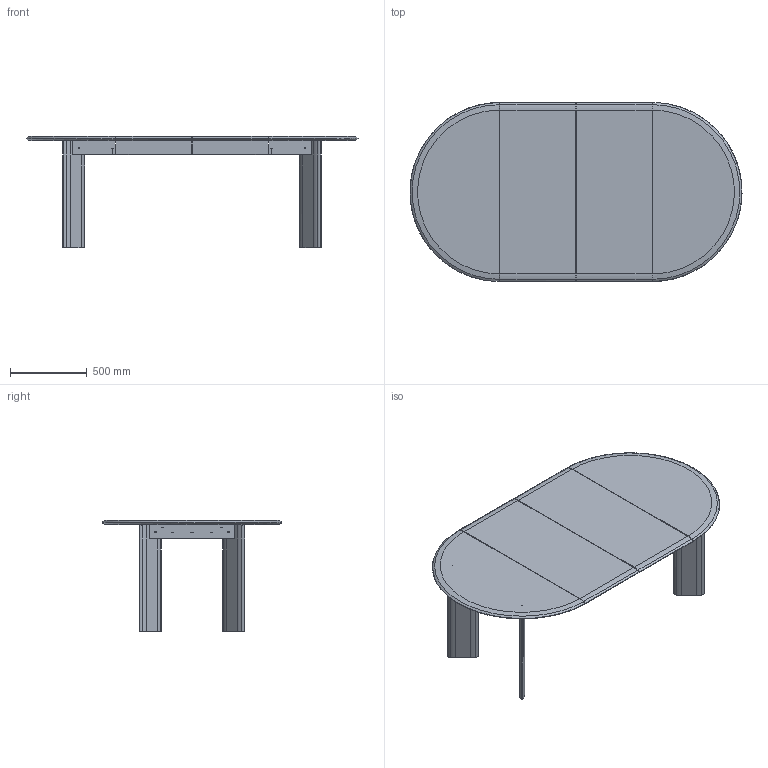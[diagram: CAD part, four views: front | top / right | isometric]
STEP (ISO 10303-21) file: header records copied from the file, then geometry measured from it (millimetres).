
FILE_DESCRIPTION(/* description */ (''),/* implementation_level */ '2;1');
FILE_NAME(/* name */ 'BNP89E~6',/* time_stamp */ '2020-03-25T12:57:29+01:00',/* author */ (''),/* organization */ (''),/* preprocessor_version */ 'ST-DEVELOPER v16.5',/* originating_system */ '',/* authorisation */ '');
FILE_SCHEMA (('AUTOMOTIVE_DESIGN'));
Products named in the file (1): Document
Bounding box: 2169.89 x 1170 x 732 mm (x, y, z)
Volume: 92755517.3 mm3; surface area: 7252190.3 mm2
Topology: 62 solids, 70 shells, 1794 faces, 4516 edges, 2964 vertices
Faces by surface type: bspline 1098, plane 696
Entity records: 102301 total; most frequent: CARTESIAN_POINT 73545, ORIENTED_EDGE 9012, EDGE_CURVE 4516, B_SPLINE_CURVE_WITH_KNOTS 3336, VERTEX_POINT 2964, EDGE_LOOP 2020, ADVANCED_FACE 1794, FACE_OUTER_BOUND 1794
